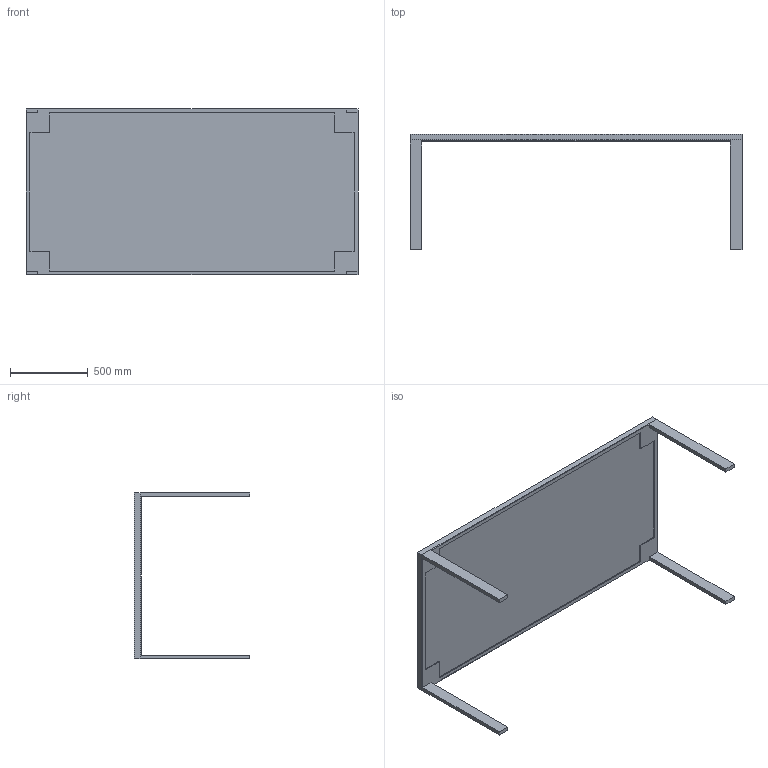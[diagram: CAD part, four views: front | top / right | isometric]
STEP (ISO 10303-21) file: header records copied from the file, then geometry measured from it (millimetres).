
FILE_DESCRIPTION(/* description */ ('','CAx-IF Rec.Pracs.---Representation and Presentation of Product Manufacturing Information (PMI)---4.0---2014-10-13'),/* implementation_level */ '2;1');
FILE_NAME(/* name */ 'TABLE_FOUNDATION 3.stp',/* time_stamp */ '2024-12-07T16:54:26-05:00',/* author */ ('mbowman'),/* organization */ (''),/* preprocessor_version */ 'ST-DEVELOPER v19.2',/* originating_system */ 'Autodesk Inventor 2023',/* authorisation */ '');
FILE_SCHEMA (('AP242_MANAGED_MODEL_BASED_3D_ENGINEERING_MIM_LF { 1 0 10303 442 1 1 4 }'));
Length unit declared in the file: inch
Products named in the file (2): FOUNDATION^TABLE 3_42x84-1x3 STEEL BASE; FOUNDATION^TABLE 3_42x84-1x3 STEEL BASE_1
Assembly tree (1 placements, depth 2):
  FOUNDATION^TABLE 3_42x84-1x3 STEEL BASE
    FOUNDATION^TABLE 3_42x84-1x3 STEEL BASE_1
Bounding box: 2133.6 x 742.95 x 1066.8 mm (x, y, z)
Volume: 93553748.4 mm3; surface area: 5892891.4 mm2
Topology: 2 solids, 2 shells, 36 faces, 96 edges, 64 vertices
Faces by surface type: plane 36
Entity records: 1518 total; most frequent: CARTESIAN_POINT 340, ORIENTED_EDGE 192, DIRECTION 182, LINE 96, VECTOR 96, EDGE_CURVE 96, STYLED_ITEM 83, VERTEX_POINT 64
